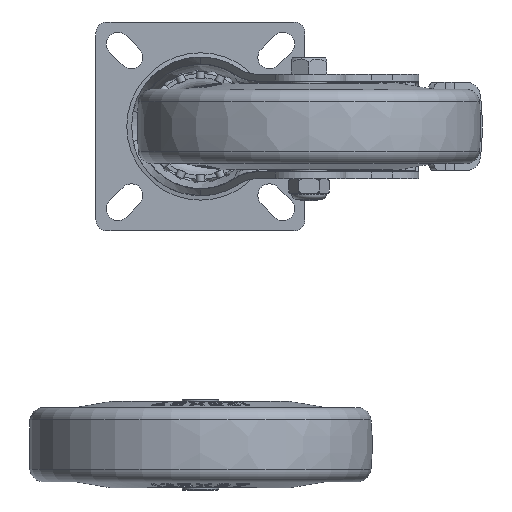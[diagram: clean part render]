
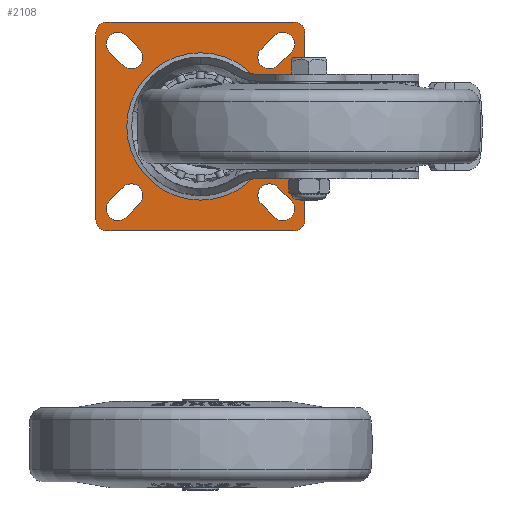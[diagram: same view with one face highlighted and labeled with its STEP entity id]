
A CAD part, front view. The second image highlights one B-rep face of the part: STEP entity #2108.
In plain terms, the highlighted planar face has unit normal (0, -1, 0) as drawn and (0, 0, 1) by its records, which use the part's own axes.
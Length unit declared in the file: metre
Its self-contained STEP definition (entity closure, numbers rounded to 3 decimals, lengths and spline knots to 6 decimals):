
#2108=ADVANCED_FACE('',(#5367,#5368,#5369,#5370,#5371,#5372),#5373,.F.);
#5367=FACE_OUTER_BOUND('',#12377,.T.);
#5368=FACE_BOUND('',#12378,.T.);
#5369=FACE_BOUND('',#12379,.T.);
#5370=FACE_BOUND('',#12380,.T.);
#5371=FACE_BOUND('',#12381,.T.);
#5372=FACE_BOUND('',#12382,.T.);
#5373=PLANE('',#12383);
#12377=EDGE_LOOP('',(#25845,#25846,#25847,#25848,#25849,#25850,#25851,#25852));
#12378=EDGE_LOOP('',(#25853));
#12379=EDGE_LOOP('',(#25854,#25855,#25856,#25857));
#12380=EDGE_LOOP('',(#25858,#25859,#25860,#25861));
#12381=EDGE_LOOP('',(#25862,#25863,#25864,#25865));
#12382=EDGE_LOOP('',(#25866,#25867,#25868,#25869));
#12383=AXIS2_PLACEMENT_3D('',#25870,#25871,#25872);
#25845=ORIENTED_EDGE('',*,*,#33577,.F.);
#25846=ORIENTED_EDGE('',*,*,#33574,.F.);
#25847=ORIENTED_EDGE('',*,*,#33578,.F.);
#25848=ORIENTED_EDGE('',*,*,#33579,.F.);
#25849=ORIENTED_EDGE('',*,*,#33580,.F.);
#25850=ORIENTED_EDGE('',*,*,#33581,.F.);
#25851=ORIENTED_EDGE('',*,*,#33582,.F.);
#25852=ORIENTED_EDGE('',*,*,#33583,.F.);
#25853=ORIENTED_EDGE('',*,*,#33584,.F.);
#25854=ORIENTED_EDGE('',*,*,#33585,.F.);
#25855=ORIENTED_EDGE('',*,*,#33586,.F.);
#25856=ORIENTED_EDGE('',*,*,#33587,.F.);
#25857=ORIENTED_EDGE('',*,*,#33588,.F.);
#25858=ORIENTED_EDGE('',*,*,#33589,.F.);
#25859=ORIENTED_EDGE('',*,*,#33590,.F.);
#25860=ORIENTED_EDGE('',*,*,#33591,.F.);
#25861=ORIENTED_EDGE('',*,*,#33592,.F.);
#25862=ORIENTED_EDGE('',*,*,#33593,.F.);
#25863=ORIENTED_EDGE('',*,*,#33594,.F.);
#25864=ORIENTED_EDGE('',*,*,#33595,.F.);
#25865=ORIENTED_EDGE('',*,*,#33596,.F.);
#25866=ORIENTED_EDGE('',*,*,#33597,.F.);
#25867=ORIENTED_EDGE('',*,*,#33598,.F.);
#25868=ORIENTED_EDGE('',*,*,#33599,.F.);
#25869=ORIENTED_EDGE('',*,*,#33600,.F.);
#25870=CARTESIAN_POINT('',(0.0,0.0,-0.005));
#25871=DIRECTION('',(0.0,0.0,-1.0));
#25872=DIRECTION('',(0.0,-1.0,0.0));
#33574=EDGE_CURVE('',#41007,#41010,#41011,.T.);
#33577=EDGE_CURVE('',#41010,#41015,#41016,.T.);
#33578=EDGE_CURVE('',#41017,#41007,#41018,.T.);
#33579=EDGE_CURVE('',#41019,#41017,#41020,.T.);
#33580=EDGE_CURVE('',#41021,#41019,#41022,.T.);
#33581=EDGE_CURVE('',#41023,#41021,#41024,.T.);
#33582=EDGE_CURVE('',#41025,#41023,#41026,.T.);
#33583=EDGE_CURVE('',#41015,#41025,#41027,.T.);
#33584=EDGE_CURVE('',#41028,#41028,#41029,.T.);
#33585=EDGE_CURVE('',#41030,#41031,#41032,.T.);
#33586=EDGE_CURVE('',#41033,#41030,#41034,.T.);
#33587=EDGE_CURVE('',#41035,#41033,#41036,.T.);
#33588=EDGE_CURVE('',#41031,#41035,#41037,.T.);
#33589=EDGE_CURVE('',#41038,#41039,#41040,.T.);
#33590=EDGE_CURVE('',#41041,#41038,#41042,.T.);
#33591=EDGE_CURVE('',#41043,#41041,#41044,.T.);
#33592=EDGE_CURVE('',#41039,#41043,#41045,.T.);
#33593=EDGE_CURVE('',#41046,#41047,#41048,.T.);
#33594=EDGE_CURVE('',#41049,#41046,#41050,.T.);
#33595=EDGE_CURVE('',#41051,#41049,#41052,.T.);
#33596=EDGE_CURVE('',#41047,#41051,#41053,.T.);
#33597=EDGE_CURVE('',#41054,#41055,#41056,.T.);
#33598=EDGE_CURVE('',#41057,#41054,#41058,.T.);
#33599=EDGE_CURVE('',#41059,#41057,#41060,.T.);
#33600=EDGE_CURVE('',#41055,#41059,#41061,.T.);
#41007=VERTEX_POINT('',#58255);
#41010=VERTEX_POINT('',#58259);
#41011=CIRCLE('',#58260,0.004);
#41015=VERTEX_POINT('',#58265);
#41016=LINE('',#58266,#58267);
#41017=VERTEX_POINT('',#58268);
#41018=LINE('',#58269,#58270);
#41019=VERTEX_POINT('',#58271);
#41020=CIRCLE('',#58272,0.004);
#41021=VERTEX_POINT('',#58273);
#41022=LINE('',#58274,#58275);
#41023=VERTEX_POINT('',#58276);
#41024=CIRCLE('',#58277,0.004);
#41025=VERTEX_POINT('',#58278);
#41026=LINE('',#58279,#58280);
#41027=CIRCLE('',#58281,0.004);
#41028=VERTEX_POINT('',#58282);
#41029=CIRCLE('',#58283,0.01525);
#41030=VERTEX_POINT('',#58284);
#41031=VERTEX_POINT('',#58285);
#41032=CIRCLE('',#58286,0.00425);
#41033=VERTEX_POINT('',#58287);
#41034=LINE('',#58288,#58289);
#41035=VERTEX_POINT('',#58290);
#41036=CIRCLE('',#58291,0.00425);
#41037=LINE('',#58292,#58293);
#41038=VERTEX_POINT('',#58294);
#41039=VERTEX_POINT('',#58295);
#41040=LINE('',#58296,#58297);
#41041=VERTEX_POINT('',#58298);
#41042=CIRCLE('',#58299,0.00425);
#41043=VERTEX_POINT('',#58300);
#41044=LINE('',#58301,#58302);
#41045=CIRCLE('',#58303,0.00425);
#41046=VERTEX_POINT('',#58304);
#41047=VERTEX_POINT('',#58305);
#41048=LINE('',#58306,#58307);
#41049=VERTEX_POINT('',#58308);
#41050=CIRCLE('',#58309,0.00425);
#41051=VERTEX_POINT('',#58310);
#41052=LINE('',#58311,#58312);
#41053=CIRCLE('',#58313,0.00425);
#41054=VERTEX_POINT('',#58314);
#41055=VERTEX_POINT('',#58315);
#41056=CIRCLE('',#58316,0.00425);
#41057=VERTEX_POINT('',#58317);
#41058=LINE('',#58318,#58319);
#41059=VERTEX_POINT('',#58320);
#41060=CIRCLE('',#58321,0.00425);
#41061=LINE('',#58322,#58323);
#58255=CARTESIAN_POINT('',(0.038,-0.034,-0.005));
#58259=CARTESIAN_POINT('',(0.034,-0.038,-0.005));
#58260=AXIS2_PLACEMENT_3D('',#68190,#68191,#68192);
#58265=CARTESIAN_POINT('',(-0.034,-0.038,-0.005));
#58266=CARTESIAN_POINT('',(0.034,-0.038,-0.005));
#58267=VECTOR('',#68197,1.0);
#58268=CARTESIAN_POINT('',(0.038,0.034,-0.005));
#58269=CARTESIAN_POINT('',(0.038,0.034,-0.005));
#58270=VECTOR('',#68198,1.0);
#58271=CARTESIAN_POINT('',(0.034,0.038,-0.005));
#58272=AXIS2_PLACEMENT_3D('',#68199,#68200,#68201);
#58273=CARTESIAN_POINT('',(-0.034,0.038,-0.005));
#58274=CARTESIAN_POINT('',(-0.034,0.038,-0.005));
#58275=VECTOR('',#68202,1.0);
#58276=CARTESIAN_POINT('',(-0.038,0.034,-0.005));
#58277=AXIS2_PLACEMENT_3D('',#68203,#68204,#68205);
#58278=CARTESIAN_POINT('',(-0.038,-0.034,-0.005));
#58279=CARTESIAN_POINT('',(-0.038,-0.034,-0.005));
#58280=VECTOR('',#68206,1.0);
#58281=AXIS2_PLACEMENT_3D('',#68207,#68208,#68209);
#58282=CARTESIAN_POINT('',(-0.01525,0.0,-0.005));
#58283=AXIS2_PLACEMENT_3D('',#68210,#68211,#68212);
#58284=CARTESIAN_POINT('',(-0.033005,-0.026995,-0.005));
#58285=CARTESIAN_POINT('',(-0.026995,-0.033005,-0.005));
#58286=AXIS2_PLACEMENT_3D('',#68213,#68214,#68215);
#58287=CARTESIAN_POINT('',(-0.028155,-0.022145,-0.005));
#58288=CARTESIAN_POINT('',(-0.028155,-0.022145,-0.005));
#58289=VECTOR('',#68216,1.0);
#58290=CARTESIAN_POINT('',(-0.022145,-0.028155,-0.005));
#58291=AXIS2_PLACEMENT_3D('',#68217,#68218,#68219);
#58292=CARTESIAN_POINT('',(-0.026995,-0.033005,-0.005));
#58293=VECTOR('',#68220,1.0);
#58294=CARTESIAN_POINT('',(-0.033005,0.026995,-0.005));
#58295=CARTESIAN_POINT('',(-0.028155,0.022145,-0.005));
#58296=CARTESIAN_POINT('',(-0.033005,0.026995,-0.005));
#58297=VECTOR('',#68221,1.0);
#58298=CARTESIAN_POINT('',(-0.026995,0.033005,-0.005));
#58299=AXIS2_PLACEMENT_3D('',#68222,#68223,#68224);
#58300=CARTESIAN_POINT('',(-0.022145,0.028155,-0.005));
#58301=CARTESIAN_POINT('',(-0.022145,0.028155,-0.005));
#58302=VECTOR('',#68225,1.0);
#58303=AXIS2_PLACEMENT_3D('',#68226,#68227,#68228);
#58304=CARTESIAN_POINT('',(0.033005,-0.026995,-0.005));
#58305=CARTESIAN_POINT('',(0.028155,-0.022145,-0.005));
#58306=CARTESIAN_POINT('',(0.033005,-0.026995,-0.005));
#58307=VECTOR('',#68229,1.0);
#58308=CARTESIAN_POINT('',(0.026995,-0.033005,-0.005));
#58309=AXIS2_PLACEMENT_3D('',#68230,#68231,#68232);
#58310=CARTESIAN_POINT('',(0.022145,-0.028155,-0.005));
#58311=CARTESIAN_POINT('',(0.022145,-0.028155,-0.005));
#58312=VECTOR('',#68233,1.0);
#58313=AXIS2_PLACEMENT_3D('',#68234,#68235,#68236);
#58314=CARTESIAN_POINT('',(0.033005,0.026995,-0.005));
#58315=CARTESIAN_POINT('',(0.026995,0.033005,-0.005));
#58316=AXIS2_PLACEMENT_3D('',#68237,#68238,#68239);
#58317=CARTESIAN_POINT('',(0.028155,0.022145,-0.005));
#58318=CARTESIAN_POINT('',(0.028155,0.022145,-0.005));
#58319=VECTOR('',#68240,1.0);
#58320=CARTESIAN_POINT('',(0.022145,0.028155,-0.005));
#58321=AXIS2_PLACEMENT_3D('',#68241,#68242,#68243);
#58322=CARTESIAN_POINT('',(0.026995,0.033005,-0.005));
#58323=VECTOR('',#68244,1.0);
#68190=CARTESIAN_POINT('',(0.034,-0.034,-0.005));
#68191=DIRECTION('',(0.0,0.0,-1.0));
#68192=DIRECTION('',(1.0,0.0,0.0));
#68197=DIRECTION('',(-1.0,0.0,0.0));
#68198=DIRECTION('',(0.0,-1.0,0.0));
#68199=CARTESIAN_POINT('',(0.034,0.034,-0.005));
#68200=DIRECTION('',(0.0,0.0,-1.0));
#68201=DIRECTION('',(0.0,1.0,0.0));
#68202=DIRECTION('',(1.0,0.0,0.0));
#68203=CARTESIAN_POINT('',(-0.034,0.034,-0.005));
#68204=DIRECTION('',(0.0,0.0,-1.0));
#68205=DIRECTION('',(-1.0,0.0,0.0));
#68206=DIRECTION('',(0.0,1.0,0.0));
#68207=CARTESIAN_POINT('',(-0.034,-0.034,-0.005));
#68208=DIRECTION('',(0.0,0.0,-1.0));
#68209=DIRECTION('',(0.0,-1.0,0.0));
#68210=CARTESIAN_POINT('',(0.0,0.0,-0.005));
#68211=DIRECTION('',(0.0,0.0,1.0));
#68212=DIRECTION('',(-1.0,0.0,0.0));
#68213=CARTESIAN_POINT('',(-0.03,-0.03,-0.005));
#68214=DIRECTION('',(0.0,0.0,1.0));
#68215=DIRECTION('',(0.0,-1.0,0.0));
#68216=DIRECTION('',(-0.707,-0.707,0.0));
#68217=CARTESIAN_POINT('',(-0.02515,-0.02515,-0.005));
#68218=DIRECTION('',(0.0,-0.0,1.0));
#68219=DIRECTION('',(0.0,1.0,0.0));
#68220=DIRECTION('',(0.707,0.707,0.0));
#68221=DIRECTION('',(0.707,-0.707,0.0));
#68222=CARTESIAN_POINT('',(-0.03,0.03,-0.005));
#68223=DIRECTION('',(0.0,-0.0,1.0));
#68224=DIRECTION('',(0.0,1.0,0.0));
#68225=DIRECTION('',(-0.707,0.707,0.0));
#68226=CARTESIAN_POINT('',(-0.02515,0.02515,-0.005));
#68227=DIRECTION('',(0.0,0.0,1.0));
#68228=DIRECTION('',(0.0,-1.0,0.0));
#68229=DIRECTION('',(-0.707,0.707,0.0));
#68230=CARTESIAN_POINT('',(0.03,-0.03,-0.005));
#68231=DIRECTION('',(0.0,0.0,1.0));
#68232=DIRECTION('',(0.0,-1.0,0.0));
#68233=DIRECTION('',(0.707,-0.707,0.0));
#68234=CARTESIAN_POINT('',(0.02515,-0.02515,-0.005));
#68235=DIRECTION('',(0.0,-0.0,1.0));
#68236=DIRECTION('',(0.0,1.0,0.0));
#68237=CARTESIAN_POINT('',(0.03,0.03,-0.005));
#68238=DIRECTION('',(0.0,-0.0,1.0));
#68239=DIRECTION('',(0.0,1.0,0.0));
#68240=DIRECTION('',(0.707,0.707,0.0));
#68241=CARTESIAN_POINT('',(0.02515,0.02515,-0.005));
#68242=DIRECTION('',(0.0,0.0,1.0));
#68243=DIRECTION('',(0.0,-1.0,0.0));
#68244=DIRECTION('',(-0.707,-0.707,0.0));
